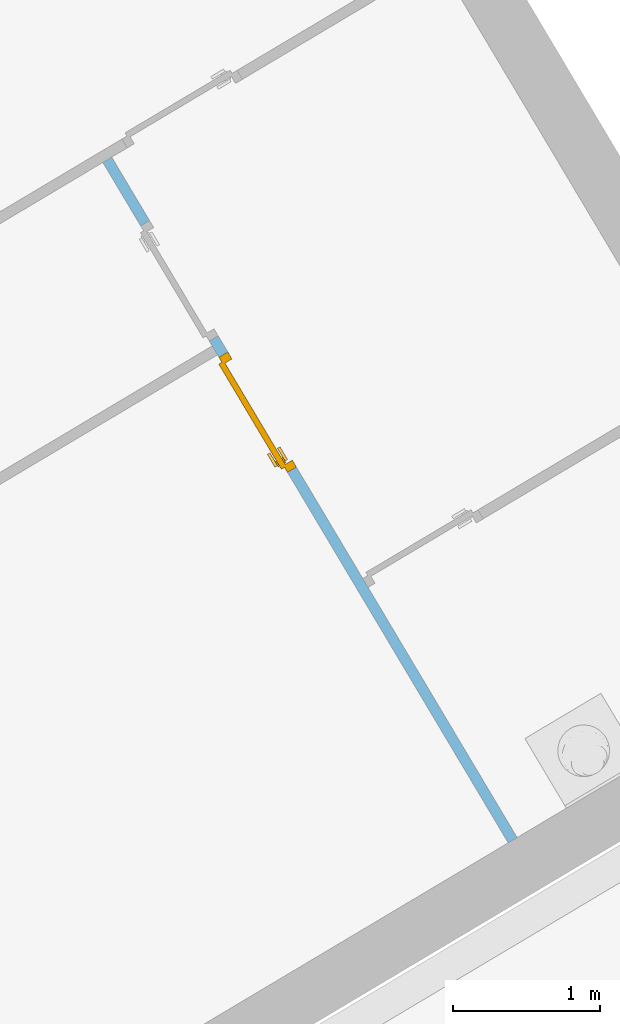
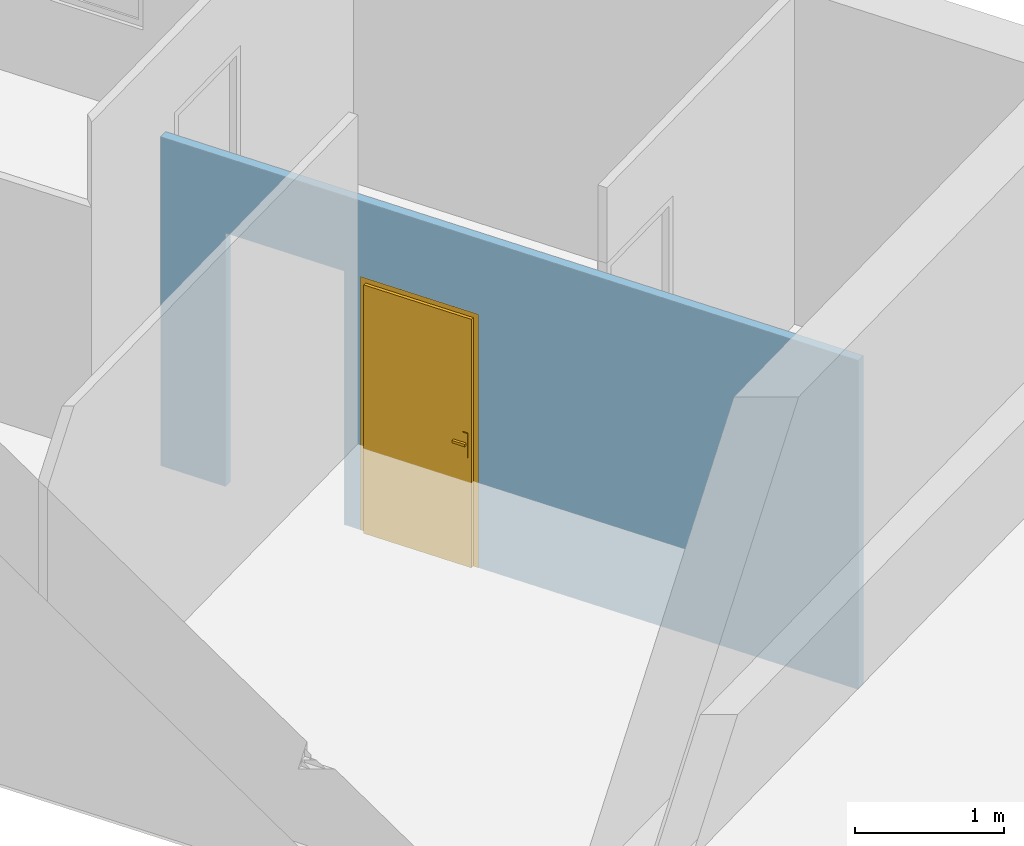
# One storey, part 83 of 121: 1 door, 2 openings, plus 1 element that does not belong to this part.
"""IFC2X3 building model written with IfcOpenShell, lengths in metres."""

from ifc_helpers import new_model, entity, si_unit, converted_unit, derived_unit, money_unit, direction, frame, origin_with_axes, origin_2d_with_axis, place, context, subcontext, project, spatial, polyline, rectangle, outline, extrude, faceted_brep, material, layer, layer_set, layer_usage, type_object, element, fill, save


model = new_model("IFC2X3")

# Units and contexts
model_context = context("Model", 3, precision=1e-05, world=origin_with_axes(), true_north=direction((0.0, 1.0)))
body_context = subcontext(model_context, "Body", "Model", "MODEL_VIEW")
ifc_project = project(units=[si_unit("LENGTHUNIT", "METRE"), si_unit("AREAUNIT", "SQUARE_METRE"), si_unit("VOLUMEUNIT", "CUBIC_METRE"), converted_unit("PLANEANGLEUNIT", "DEGREE", entity("IfcPlaneAngleMeasure", 0.0174532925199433), si_unit("PLANEANGLEUNIT", "RADIAN"), dimensions=[0, 0, 0, 0, 0, 0, 0]), money_unit("CHF"), converted_unit("TIMEUNIT", "Year", entity("IfcTimeMeasure", 31557600.0), si_unit("TIMEUNIT", "SECOND"), dimensions=[0, 0, 1, 0, 0, 0, 0]), si_unit("MASSUNIT", "GRAM", prefix="KILO"), si_unit("THERMODYNAMICTEMPERATUREUNIT", "DEGREE_CELSIUS"), si_unit("LUMINOUSINTENSITYUNIT", "LUMEN"), si_unit("ENERGYUNIT", "JOULE", prefix="MEGA"), derived_unit("THERMALCONDUCTANCEUNIT", [(si_unit("POWERUNIT", "WATT"), 1), (si_unit("LENGTHUNIT", "METRE"), -1), (si_unit("THERMODYNAMICTEMPERATUREUNIT", "KELVIN"), -1)]), derived_unit("SPECIFICHEATCAPACITYUNIT", [(si_unit("ENERGYUNIT", "JOULE"), 1), (si_unit("MASSUNIT", "GRAM", prefix="KILO"), -1), (si_unit("THERMODYNAMICTEMPERATUREUNIT", "KELVIN"), -1)]), derived_unit("MASSDENSITYUNIT", [(si_unit("MASSUNIT", "GRAM", prefix="KILO"), 1), (si_unit("VOLUMEUNIT", "CUBIC_METRE"), -1)])], contexts=[model_context])

# Site, building, storey
site_placement = place(None, origin_with_axes())
site = spatial("IfcSite", under=ifc_project, at=site_placement, Name="Site", CompositionType="ELEMENT")
building_placement = place(site_placement, origin_with_axes())
building = spatial("IfcBuilding", under=site, at=building_placement, Name="Bâtiment", CompositionType="ELEMENT")
storey_placement = place(building_placement, frame((0.0, 0.0, 2.75), z_axis=(0.0, 0.0, 1.0), x_axis=(1.0, 0.0, 0.0)))
storey = spatial("IfcBuildingStorey", under=building, at=storey_placement, Name="Etage 1", CompositionType="ELEMENT", Elevation=2.75)

# Wall, openings, door
ifc_material = material(Name="Hachure solide 268963992")
ifc_layer = layer(ifc_material, 0.07, ventilated="UNKNOWN")
ifc_layer_set = layer_set([ifc_layer], Name="Cloison 70 0826278243")
ifc_layer_usage = layer_usage(ifc_layer_set, "AXIS2", "NEGATIVE", 0.0)
wall_type = type_object("IfcWallType", Name="Cloison 70 0826278243 70", PredefinedType="NOTDEFINED")
wall_placement = place(storey_placement, frame((9544.327423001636, -1047.844279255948, 57.0), z_axis=(0.0, 0.0, 1.0), x_axis=(0.5118298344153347, -0.8590868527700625, 0.0)))
wall = element("IfcWallStandardCase", 1, at=wall_placement, inside=storey, type_object=wall_type, material=ifc_layer_usage, Name="Mur-150", context=body_context, shape_type="SweptSolid", body=[
    extrude(outline(polyline([(-4.143885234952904e-10, -0.06999999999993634), (5.373879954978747, -0.06999999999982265), (5.373879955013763, 0.0), (-4.125695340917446e-10, 0.0), (-4.143885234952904e-10, -0.06999999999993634)])), origin_with_axes(), (0.0, 0.0, 1.0), 2.7),
])
opening_1_placement = place(wall_placement, frame((1.993332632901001, 0.0, 0.0), z_axis=(0.0, 0.0, 1.0), x_axis=(1.0, 0.0, 0.0)))
opening_1 = element("IfcOpeningElement", 2, at=opening_1_placement, cuts=wall, Name="Por-289", context=body_context, shape_type="SweptSolid", body=[
    extrude(rectangle(XDim=0.9099999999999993, YDim=2.079999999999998, at=origin_2d_with_axis()), frame((0.0, 0.07000000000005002, 1.039999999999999), z_axis=(0.0, -1.0, 0.0), x_axis=(-1.0, 0.0, 0.0)), (0.0, 0.0, 1.0), 0.14),
])
opening_2_placement = place(wall_placement, frame((0.9558806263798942, 0.0, 0.0), z_axis=(0.0, 0.0, 1.0), x_axis=(1.0, 0.0, 0.0)))
element("IfcOpeningElement", 3, at=opening_2_placement, cuts=wall, Name="Por-290", context=body_context, shape_type="SweptSolid", body=[
    extrude(rectangle(XDim=0.9099999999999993, YDim=2.079999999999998, at=origin_2d_with_axis()), frame((0.0, 0.06999999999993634, 1.039999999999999), z_axis=(0.0, 1.0, 0.0), x_axis=(1.0, 0.0, 0.0)), (0.0, 0.0, -1.0), 0.14),
])
door_style = type_object("IfcDoorStyle", Name="Porte_1v", ConstructionType="NOTDEFINED", OperationType="NOTDEFINED", ParameterTakesPrecedence=False, Sizeable=False)
door_placement = place(opening_1_placement, frame((0.4150000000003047, 0.0, 0.0), z_axis=(0.0, 0.0, 1.0), x_axis=(-1.0, 0.0, 0.0)))
door = element("IfcDoor", 4, at=door_placement, inside=storey, type_object=door_style, Name="Por-289", OverallHeight=2.04, OverallWidth=0.83, context=body_context, shape_type="Brep", body=[
    faceted_brep([(0.8700000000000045, 0.06999999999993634, 0.0), (0.8299999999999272, 0.06999999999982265, 0.0), (0.8299999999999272, 0.06999999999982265, 2.039999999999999), (0.0, 0.06999999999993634, 2.039999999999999), (0.0, 0.06999999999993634, 0.0), (-0.04000000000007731, 0.06999999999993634, 0.0), (-0.04000000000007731, 0.06999999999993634, 2.079999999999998), (0.8700000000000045, 0.06999999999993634, 2.079999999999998), (0.8699999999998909, 0.0, 0.0), (0.8149999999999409, 0.0, 0.0), (0.8149999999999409, 0.05499999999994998, 0.0), (0.8299999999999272, 0.05499999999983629, 0.0), (0.8299999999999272, 0.05499999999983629, 2.039999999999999), (0.0, 0.05499999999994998, 2.039999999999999), (0.0, 0.05499999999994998, 0.0), (0.01499999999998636, 0.05499999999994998, 0.0), (0.01499999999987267, 0.0, 0.0), (-0.04000000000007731, 0.0, 0.0), (-0.04000000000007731, 0.0, 2.079999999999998), (0.8699999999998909, 0.0, 2.079999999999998), (0.01499999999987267, 0.0, 2.024999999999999), (0.8149999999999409, 0.0, 2.024999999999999), (0.8149999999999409, 0.05499999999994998, 2.024999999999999), (0.01499999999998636, 0.05499999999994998, 2.024999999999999)], [[[0, 1, 2, 3, 4, 5, 6, 7]], [[0, 8, 9, 10, 11, 1]], [[1, 11, 12, 2]], [[2, 12, 13, 3]], [[3, 13, 14, 4]], [[5, 4, 14, 15, 16, 17]], [[18, 6, 5, 17]], [[19, 7, 6, 18]], [[8, 0, 7, 19]], [[9, 8, 19, 18, 17, 16, 20, 21]], [[10, 9, 21, 22]], [[11, 10, 22, 23, 15, 14, 13, 12]], [[23, 20, 16, 15]], [[22, 21, 20, 23]]]),
    faceted_brep([(0.06499999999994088, 0.05499999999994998, 0.8999999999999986), (0.02499999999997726, 0.05499999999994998, 0.8999999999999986), (0.02499999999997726, 0.05499999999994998, 1.100000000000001), (0.06499999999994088, 0.05499999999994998, 1.100000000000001), (0.06499999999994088, 0.04499999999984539, 0.8999999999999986), (0.02499999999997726, 0.04499999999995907, 0.8999999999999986), (0.02499999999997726, 0.04499999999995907, 1.100000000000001), (0.06499999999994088, 0.04499999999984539, 1.100000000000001)], [[[0, 1, 2, 3]], [[1, 0, 4, 5]], [[2, 1, 5, 6]], [[3, 2, 6, 7]], [[0, 3, 7, 4]], [[5, 4, 7, 6]]]),
    faceted_brep([(0.1349999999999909, 0.04499999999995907, 1.0), (0.03499999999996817, 0.04499999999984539, 1.0), (0.03499999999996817, 0.04499999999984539, 1.020000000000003), (0.1349999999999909, 0.04499999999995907, 1.020000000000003), (0.1349999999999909, 0.02499999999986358, 1.0), (0.03499999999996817, 0.02499999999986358, 1.0), (0.03499999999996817, 0.02499999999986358, 1.020000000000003), (0.1349999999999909, 0.02499999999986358, 1.020000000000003)], [[[0, 1, 2, 3]], [[1, 0, 4, 5]], [[2, 1, 5, 6]], [[3, 2, 6, 7]], [[0, 3, 7, 4]], [[5, 4, 7, 6]]]),
    faceted_brep([(0.06499999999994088, 0.1049999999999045, 0.8999999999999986), (0.02499999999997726, 0.1049999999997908, 0.8999999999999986), (0.02499999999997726, 0.1049999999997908, 1.100000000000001), (0.06499999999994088, 0.1049999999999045, 1.100000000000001), (0.06499999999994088, 0.09500000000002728, 0.8999999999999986), (0.02499999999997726, 0.09499999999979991, 0.8999999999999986), (0.02499999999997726, 0.09499999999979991, 1.100000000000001), (0.06499999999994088, 0.09500000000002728, 1.100000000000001)], [[[0, 1, 2, 3]], [[1, 0, 4, 5]], [[2, 1, 5, 6]], [[3, 2, 6, 7]], [[0, 3, 7, 4]], [[5, 4, 7, 6]]]),
    faceted_brep([(0.1349999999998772, 0.1249999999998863, 1.0), (0.03499999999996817, 0.1249999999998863, 1.0), (0.03499999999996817, 0.1249999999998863, 1.020000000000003), (0.1349999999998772, 0.1249999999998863, 1.020000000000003), (0.1349999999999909, 0.1049999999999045, 1.0), (0.03499999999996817, 0.1049999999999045, 1.0), (0.03499999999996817, 0.1049999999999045, 1.020000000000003), (0.1349999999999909, 0.1049999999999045, 1.020000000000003)], [[[0, 1, 2, 3]], [[1, 0, 4, 5]], [[2, 1, 5, 6]], [[3, 2, 6, 7]], [[0, 3, 7, 4]], [[5, 4, 7, 6]]]),
    faceted_brep([(0.0, 0.0949999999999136, 0.0), (0.8299999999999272, 0.0949999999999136, 0.0), (0.8299999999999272, 0.05499999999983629, 0.0), (0.0, 0.05499999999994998, 0.0), (0.0, 0.0949999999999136, 2.039999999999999), (0.8299999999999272, 0.0949999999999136, 2.039999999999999), (0.8299999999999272, 0.05499999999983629, 2.039999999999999), (0.0, 0.05499999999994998, 2.039999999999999)], [[[0, 1, 2, 3]], [[0, 4, 5, 1]], [[1, 5, 6, 2]], [[3, 2, 6, 7]], [[4, 0, 3, 7]], [[5, 4, 7, 6]]]),
])
fill(opening_1, door)

save(model, "model.ifc")
